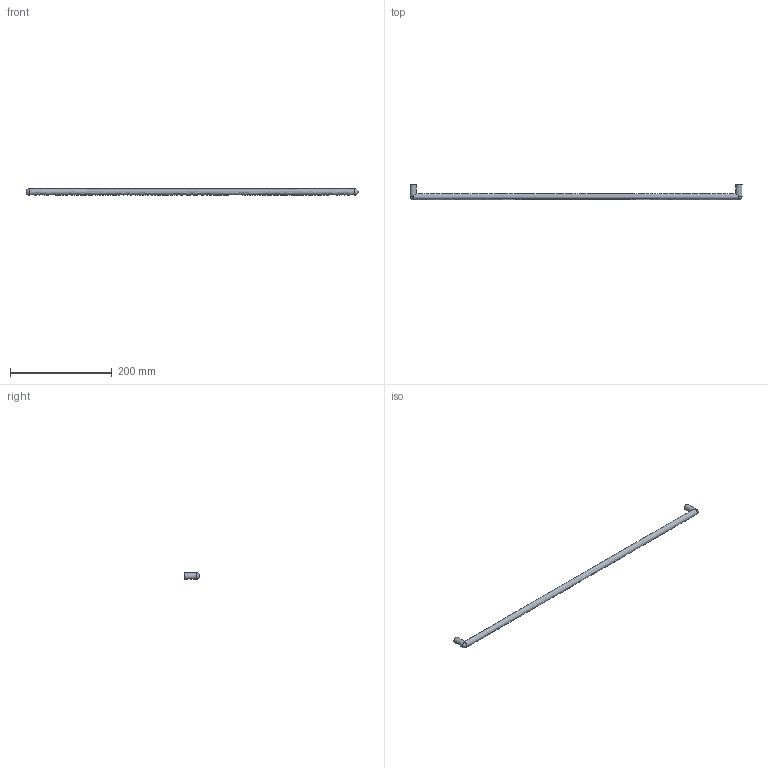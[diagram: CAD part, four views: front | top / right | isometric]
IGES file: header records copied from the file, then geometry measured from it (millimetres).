
Start section: Data from Parasolid IGES Translator 15.0.47, Copyright(c) 2006 Siemens P LM Software. All Rights Reserved.
Global section: file name:  9071010.igs; native system:  By UGS Corp.; preprocessor: XPlus GENERIC/IGES 3.0; author: Noname; organization: Noname; date: 20140122.181552; units: millimetre
Bounding box: 652 x 30 x 12 mm (x, y, z)
Surface area: 26415.5 mm2 (no closed solid volume)
Topology: 0 solids, 0 shells, 11 faces, 38 edges, 30 vertices
Faces by surface type: revolution 7, extrusion 4
